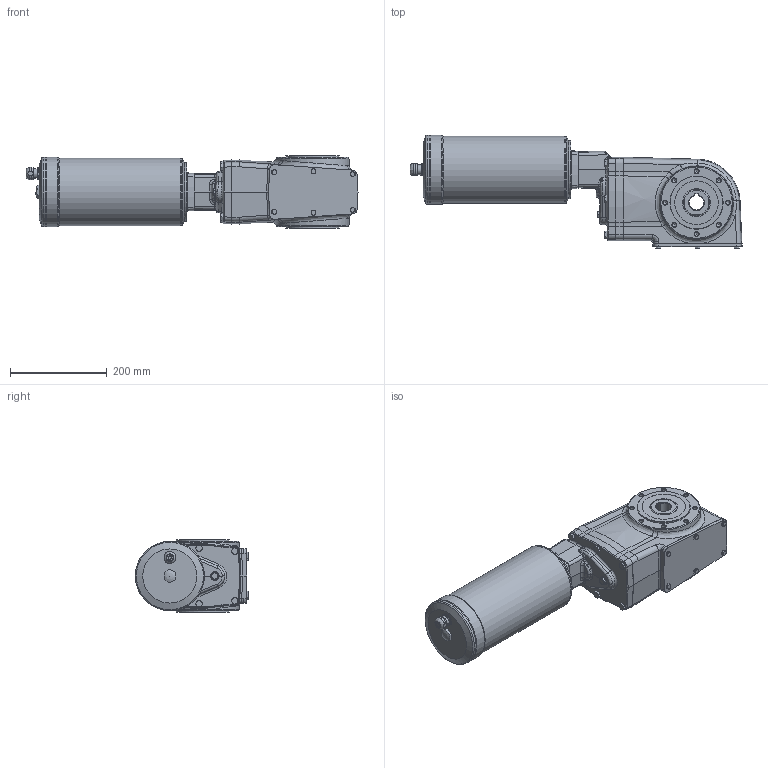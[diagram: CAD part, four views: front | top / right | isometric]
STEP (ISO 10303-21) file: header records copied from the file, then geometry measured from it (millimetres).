
FILE_DESCRIPTION( ( 'Unknown' ), '1' );
FILE_NAME( 'E:/services/configuratordownloads/customers/CLEANGEARTECH/BVN/download/3F73EB7F1D49E84E14E19ED3E6D88635/STEP/3F73EB7F1D49E84E14E19ED3E6D88635.3d.stp', 'Unknown', ( 'Unknown' ), ( 'Unknown' ), 'PSStep 10.1', 'Unknown', ' ' );
FILE_SCHEMA( ( 'AUTOMOTIVE_DESIGN { 1 0 10303 214 1 1 1 1 }' ) );
Length unit declared in the file: millimetre
Products named in the file (1): X63N
Bounding box: 686.5 x 234.7 x 150 mm (x, y, z)
Volume: 10868909 mm3; surface area: 437639.9 mm2
Topology: 1 solids, 9 shells, 777 faces, 1832 edges, 1129 vertices
Faces by surface type: plane 281, cylinder 194, cone 166, bspline 83, torus 46, extrusion 4, sphere 3
Full cylindrical faces by diameter (mm): 4.917 x9, 7 x5, 8 x4, 8.376 x32, 8.9 x6, 9 x4, 11.6 x6, 13 x4, 13.4 x1, 14 x4, 16.662 x1, 18 x1, 19 x1, 20 x1, 25 x1, 47 x1, 57.5 x2, 58 x2, 68 x1, 90 x2, 110 x2, 120 x1, 138.98 x1, 139 x2, 142.98 x2, 143 x3
Entity records: 38549 total; most frequent: CARTESIAN_POINT 16465, DIRECTION 3193, ORIENTED_EDGE 3054, EDGE_CURVE 1527, AXIS2_PLACEMENT_3D 1333, EDGE_LOOP 1050, VERTEX_POINT 1050, FACE_OUTER_BOUND 917
